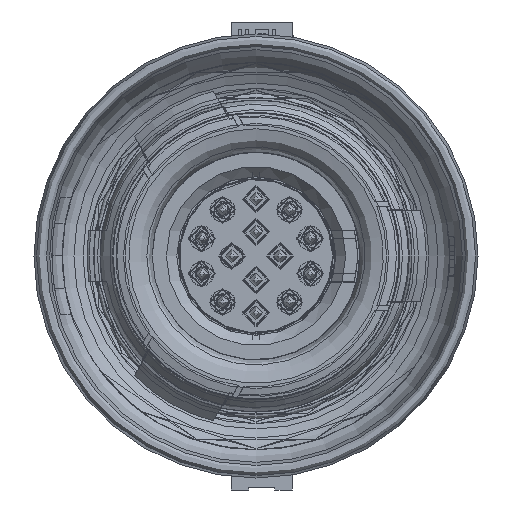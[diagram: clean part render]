
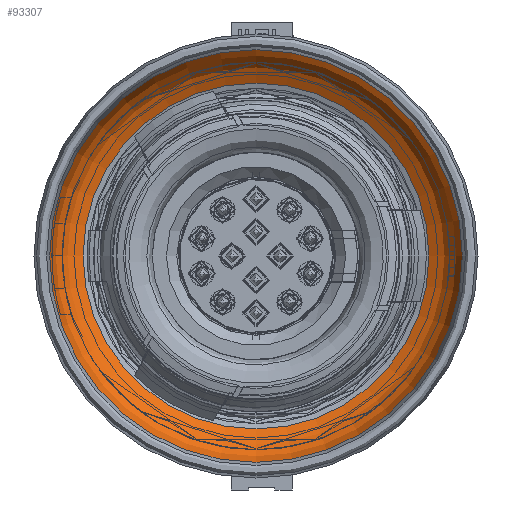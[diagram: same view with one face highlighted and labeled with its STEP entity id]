
A CAD part, left-side view. The second image highlights one B-rep face of the part: STEP entity #93307.
In plain terms, the highlighted toroidal (fillet/blend) face has major radius 5.967 mm and minor radius 2 mm.
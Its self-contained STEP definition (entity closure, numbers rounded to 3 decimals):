
#2332=TOROIDAL_SURFACE('',#100469,5.967,2.);
#13654=FACE_OUTER_BOUND('',#19093,.T.);
#19093=EDGE_LOOP('',(#85507,#85508,#85509,#85510));
#36069=CIRCLE('',#100468,6.651);
#36070=CIRCLE('',#100470,7.936);
#36071=CIRCLE('',#100471,2.);
#45028=VERTEX_POINT('',#222218);
#45029=VERTEX_POINT('',#222222);
#58549=EDGE_CURVE('',#45028,#45028,#36069,.T.);
#58550=EDGE_CURVE('',#45029,#45029,#36070,.T.);
#58551=EDGE_CURVE('',#45029,#45028,#36071,.T.);
#85507=ORIENTED_EDGE('',*,*,#58550,.T.);
#85508=ORIENTED_EDGE('',*,*,#58551,.T.);
#85509=ORIENTED_EDGE('',*,*,#58549,.F.);
#85510=ORIENTED_EDGE('',*,*,#58551,.F.);
#93307=ADVANCED_FACE('',(#13654),#2332,.F.);
#100468=AXIS2_PLACEMENT_3D('',#222220,#121134,#121135);
#100469=AXIS2_PLACEMENT_3D('',#222221,#121136,#121137);
#100470=AXIS2_PLACEMENT_3D('',#222223,#121138,#121139);
#100471=AXIS2_PLACEMENT_3D('',#222224,#121140,#121141);
#121134=DIRECTION('center_axis',(-1.,0.,0.));
#121135=DIRECTION('ref_axis',(0.,0.,-1.));
#121136=DIRECTION('center_axis',(1.,0.,0.));
#121137=DIRECTION('ref_axis',(0.,0.,-1.));
#121138=DIRECTION('center_axis',(-1.,0.,0.));
#121139=DIRECTION('ref_axis',(0.,0.,-1.));
#121140=DIRECTION('center_axis',(0.,1.,0.));
#121141=DIRECTION('ref_axis',(0.,0.,1.));
#222218=CARTESIAN_POINT('',(0.464,0.,6.641));
#222220=CARTESIAN_POINT('Origin',(0.464,0.,-0.01));
#222221=CARTESIAN_POINT('Origin',(-1.416,0.,-0.01));
#222222=CARTESIAN_POINT('',(-1.068,0.,7.926));
#222223=CARTESIAN_POINT('Origin',(-1.068,0.,-0.01));
#222224=CARTESIAN_POINT('Origin',(-1.416,0.,
5.956));
